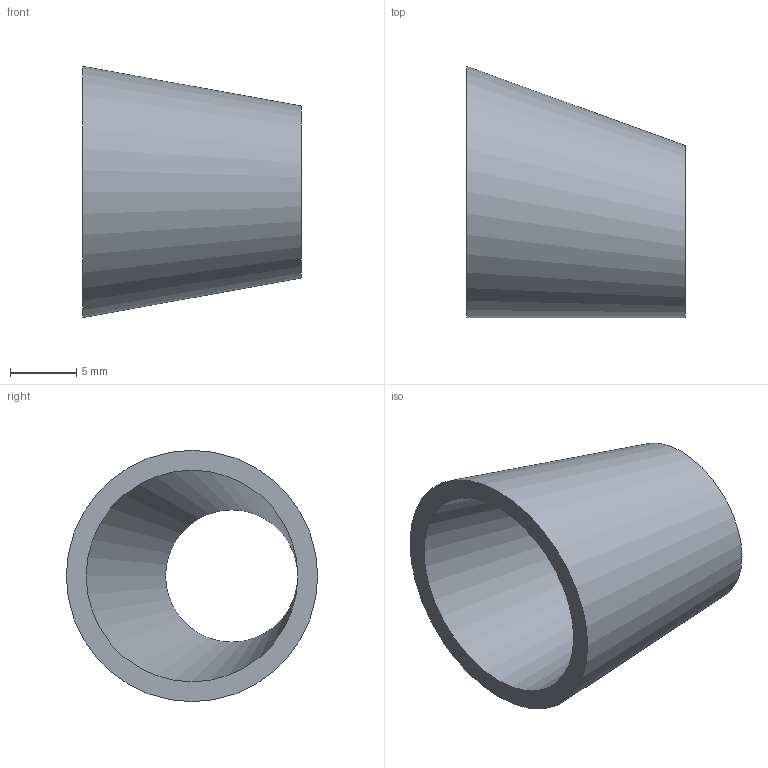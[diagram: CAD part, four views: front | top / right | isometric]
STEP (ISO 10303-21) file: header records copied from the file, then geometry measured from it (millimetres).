
FILE_DESCRIPTION(('FreeCAD Model'),'2;1');
FILE_NAME( '/home/martin/Documents/proyect/accesorios/stp/red-exc_DN15-10.step', '2017-12-31T13:01:37',('Author'),(''), 'Open CASCADE STEP processor 6.8','FreeCAD','Unknown');
FILE_SCHEMA(('AUTOMOTIVE_DESIGN_CC2 { 1 2 10303 214 -1 1 5 4 }'));
Length unit declared in the file: millimetre
Products named in the file (1): red-exc_DN15-10
Bounding box: 16.5 x 19 x 19 mm (x, y, z)
Volume: 1127.4 mm3; surface area: 1676.3 mm2
Topology: 1 solids, 1 shells, 4 faces, 6 edges, 4 vertices
Faces by surface type: bspline 2, plane 2
Entity records: 247 total; most frequent: CARTESIAN_POINT 87, DIRECTION 26, ORIENTED_EDGE 12, PCURVE 12, DEFINITIONAL_REPRESENTATION 12, CIRCLE 8, LINE 8, VECTOR 8
